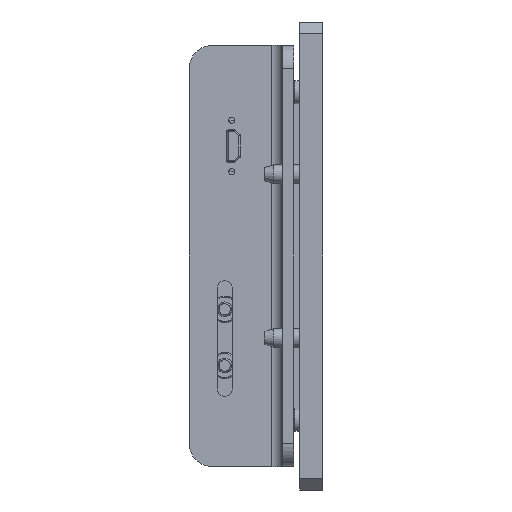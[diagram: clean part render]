
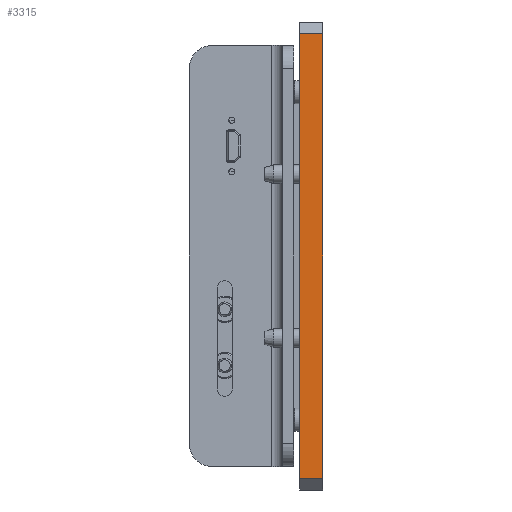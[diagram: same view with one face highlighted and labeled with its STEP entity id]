
A CAD part, left-side view. The second image highlights one B-rep face of the part: STEP entity #3315.
In plain terms, the highlighted planar face has unit normal (-1, 0, 0).
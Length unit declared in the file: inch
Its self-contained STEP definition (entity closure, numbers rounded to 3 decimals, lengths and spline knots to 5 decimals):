
#81 = VECTOR ( 'NONE', #3187, 39.37008 ) ;
#91 = EDGE_CURVE ( 'NONE', #510, #4395, #4170, .T. ) ;
#191 = DIRECTION ( 'NONE',  ( 0., 1., 0. ) ) ;
#510 = VERTEX_POINT ( 'NONE', #6139 ) ;
#1064 = VERTEX_POINT ( 'NONE', #6352 ) ;
#1375 = LINE ( 'NONE', #4822, #3217 ) ;
#1605 = VECTOR ( 'NONE', #191, 39.37008 ) ;
#1758 = CARTESIAN_POINT ( 'NONE',  ( 0., 0.5, 0. ) ) ;
#1824 = PLANE ( 'NONE',  #4781 ) ;
#2193 = ORIENTED_EDGE ( 'NONE', *, *, #3280, .T. ) ;
#2312 = VECTOR ( 'NONE', #5292, 39.37008 ) ;
#2547 = CARTESIAN_POINT ( 'NONE',  ( 0., 0., -9.75 ) ) ;
#2805 = CARTESIAN_POINT ( 'NONE',  ( 0., 0., 0. ) ) ;
#2843 = ORIENTED_EDGE ( 'NONE', *, *, #91, .T. ) ;
#3187 = DIRECTION ( 'NONE',  ( 0., -1., 0. ) ) ;
#3217 = VECTOR ( 'NONE', #5732, 39.37008 ) ;
#3280 = EDGE_CURVE ( 'NONE', #1064, #510, #1375, .T. ) ;
#3312 = LINE ( 'NONE', #2805, #2312 ) ;
#3315 = ADVANCED_FACE ( 'NONE', ( #4262 ), #1824, .T. ) ;
#3719 = EDGE_CURVE ( 'NONE', #5728, #4395, #3312, .T. ) ;
#4009 = EDGE_CURVE ( 'NONE', #5728, #1064, #5561, .T. ) ;
#4170 = LINE ( 'NONE', #4196, #81 ) ;
#4196 = CARTESIAN_POINT ( 'NONE',  ( 0., 0.5, -9.75 ) ) ;
#4262 = FACE_OUTER_BOUND ( 'NONE', #5371, .T. ) ;
#4395 = VERTEX_POINT ( 'NONE', #2547 ) ;
#4624 = CARTESIAN_POINT ( 'NONE',  ( 0., 0.5, -0.25 ) ) ;
#4727 = DIRECTION ( 'NONE',  ( 0., 0., 1. ) ) ;
#4781 = AXIS2_PLACEMENT_3D ( 'NONE', #1758, #5302, #4727 ) ;
#4822 = CARTESIAN_POINT ( 'NONE',  ( 0., 0.5, 0. ) ) ;
#5219 = ORIENTED_EDGE ( 'NONE', *, *, #3719, .F. ) ;
#5292 = DIRECTION ( 'NONE',  ( 0., 0., -1. ) ) ;
#5302 = DIRECTION ( 'NONE',  ( -1., 0., 0. ) ) ;
#5371 = EDGE_LOOP ( 'NONE', ( #2193, #2843, #5219, #5470 ) ) ;
#5470 = ORIENTED_EDGE ( 'NONE', *, *, #4009, .T. ) ;
#5475 = CARTESIAN_POINT ( 'NONE',  ( 0., 0., -0.25 ) ) ;
#5561 = LINE ( 'NONE', #4624, #1605 ) ;
#5728 = VERTEX_POINT ( 'NONE', #5475 ) ;
#5732 = DIRECTION ( 'NONE',  ( 0., 0., -1. ) ) ;
#6139 = CARTESIAN_POINT ( 'NONE',  ( 0., 0.5, -9.75 ) ) ;
#6352 = CARTESIAN_POINT ( 'NONE',  ( 0., 0.5, -0.25 ) ) ;
